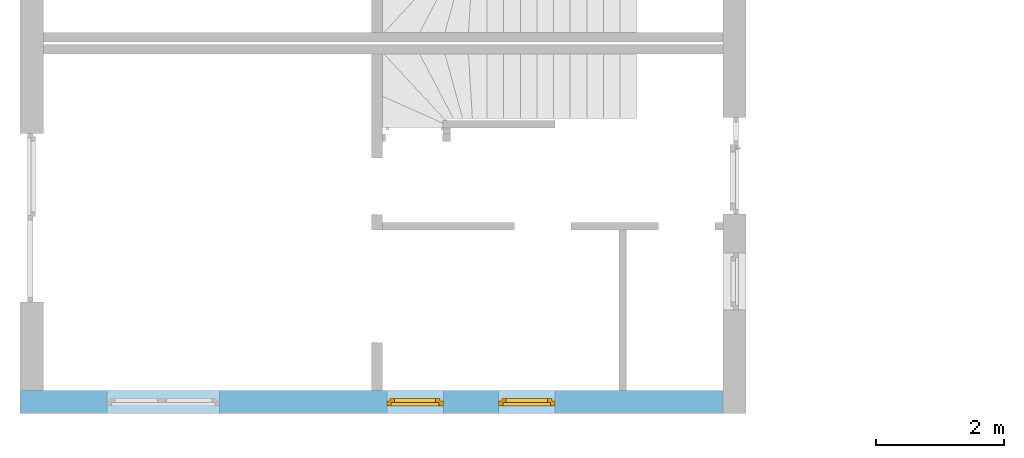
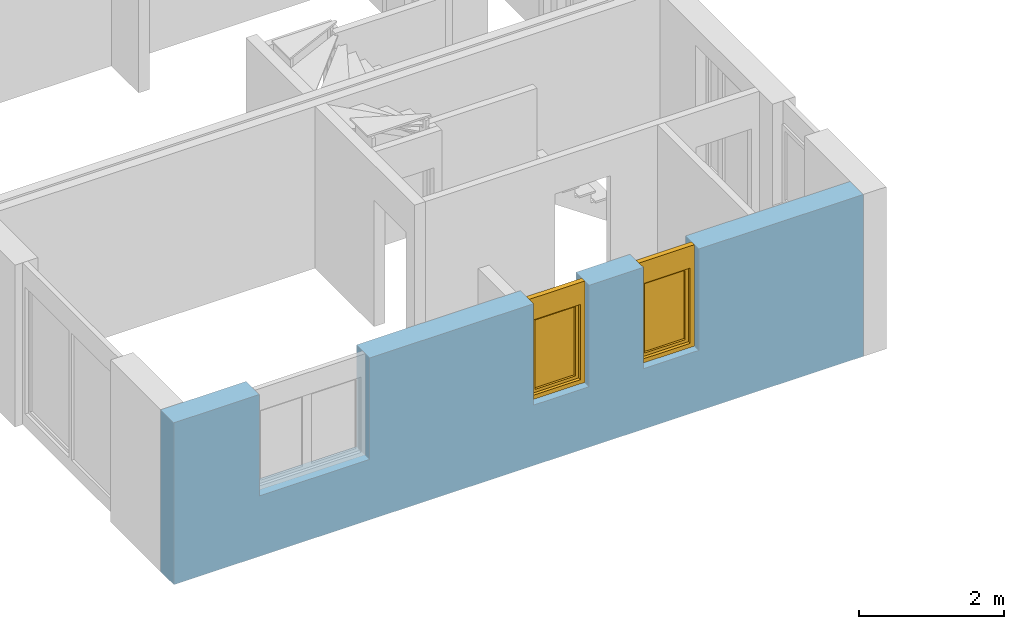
# One storey, part 4 of 41: 2 windows, 3 openings, plus 1 element that does not belong to this part.
"""IFC2X3 building model written with IfcOpenShell, lengths in millimetres."""

from ifc_helpers import new_model, entity, si_unit, converted_unit, frame, frame_2d, origin, origin_with_axes, place, context, subcontext, project, spatial, rectangle, extrude, faceted_brep, material, layer, layer_set, layer_usage, type_object, element, fill, save


model = new_model("IFC2X3")

# Units and contexts
model_context = context("Model", 3, precision=1e-05, world=origin())
body_context = subcontext(model_context, "Body", "Model", "MODEL_VIEW")
ifc_project = project(units=[si_unit("LENGTHUNIT", "METRE", prefix="MILLI"), converted_unit("PLANEANGLEUNIT", "DEGREE", entity("IfcPlaneAngleMeasure", 0.0174532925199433), si_unit("PLANEANGLEUNIT", "RADIAN"), dimensions=[0, 0, 0, 0, 0, 0, 0]), si_unit("AREAUNIT", "SQUARE_METRE"), si_unit("VOLUMEUNIT", "CUBIC_METRE")], contexts=[model_context])

# Building, storey
building_placement = place(None, origin())
building = spatial("IfcBuilding", under=ifc_project, at=building_placement, Name="Gebäude", CompositionType="ELEMENT")
storey_placement = place(building_placement, frame((0.0, 0.0, -200.0), z_axis=(0.0, 0.0, 1.0), x_axis=(1.0, 0.0, 0.0)))
storey = spatial("IfcBuildingStorey", under=building, at=storey_placement, Name="EG.- Grundriss", CompositionType="ELEMENT", Elevation=-200.0)

# Wall, openings, windows
ifc_material_1 = material(Name="Poroton")
ifc_layer = layer(ifc_material_1, 365.0000000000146)
ifc_layer_set = layer_set([ifc_layer])
ifc_layer_usage = layer_usage(ifc_layer_set, "AXIS2", "POSITIVE", 0.0)
wall_placement = place(storey_placement, frame((130992.7928067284, 125274.8877324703, 0.0), z_axis=(0.0, 0.0, 1.0), x_axis=(1.0, -2.749253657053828e-11, 0.0)))
wall = element("IfcWallStandardCase", 1, at=wall_placement, inside=storey, material=ifc_layer_usage, Name="<Unnamed Element>", context=body_context, shape_type="SweptSolid", body=[
    extrude(rectangle(XDim=10999.99999999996, YDim=365.0000000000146, at=frame_2d((5499.999999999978, 182.5000000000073), x_axis=(1.0, 0.0))), origin_with_axes(), (0.0, 0.0, 1.0), 2730.0),
])
opening_1_placement = place(wall_placement, frame((7489.999999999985, -3.477907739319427e-11, 1020.0), z_axis=(0.0, 1.0, 0.0), x_axis=(0.0, 0.0, 1.0)))
opening_1 = element("IfcOpeningElement", 2, at=opening_1_placement, cuts=wall, Name="Fensteröffnung", ObjectType="Opening", context=body_context, shape_type="SweptSolid", body=[
    extrude(rectangle(XDim=1710.0, YDim=885.0, at=frame_2d((855.0, 442.5), x_axis=(1.0, 0.0))), origin_with_axes(), (0.0, 0.0, 1.0), 365.0000000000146),
])
opening_2_placement = place(wall_placement, frame((5739.999999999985, -1.658918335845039e-11, 1020.0), z_axis=(0.0, 1.0, 0.0), x_axis=(0.0, 0.0, 1.0)))
opening_2 = element("IfcOpeningElement", 3, at=opening_2_placement, cuts=wall, Name="Fensteröffnung", ObjectType="Opening", context=body_context, shape_type="SweptSolid", body=[
    extrude(rectangle(XDim=1710.0, YDim=885.0, at=frame_2d((855.0, 442.5), x_axis=(1.0, 0.0))), origin_with_axes(), (0.0, 0.0, 1.0), 365.0000000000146),
])
opening_3_placement = place(wall_placement, frame((1364.999999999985, -7.494236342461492e-12, 1020.0), z_axis=(0.0, 1.0, 0.0), x_axis=(0.0, 0.0, 1.0)))
element("IfcOpeningElement", 4, at=opening_3_placement, cuts=wall, Name="Fensteröffnung", ObjectType="Opening", context=body_context, shape_type="SweptSolid", body=[
    extrude(rectangle(XDim=1710.0, YDim=1760.0, at=frame_2d((854.9999999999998, 880.0), x_axis=(1.0, 0.0))), origin_with_axes(), (0.0, 0.0, 1.0), 365.0000000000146),
])
ifc_material_2 = material()
window_style_1 = type_object("IfcWindowStyle", Name="Fenster", ConstructionType="NOTDEFINED", OperationType="USERDEFINED", ParameterTakesPrecedence=False, Sizeable=False)
window_1_placement = place(opening_1_placement, frame((0.0, 0.0, 0.0), z_axis=(1.0, 0.0, 0.0), x_axis=(0.0, 1.0, 0.0)))
window_1 = element("IfcWindow", 5, at=window_1_placement, inside=storey, type_object=window_style_1, material=ifc_material_2, Name="Fenster", OverallHeight=1710.0, OverallWidth=885.0, context=body_context, shape_type="Brep", body=[
    faceted_brep([(-1.224022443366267e-08, 200.0000000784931, 1710.0), (-1.224022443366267e-08, 200.000000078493, -2.449293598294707e-15), (69.99999998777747, 200.0000000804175, -2.449293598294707e-15), (69.99999998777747, 200.0000000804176, 1710.0), (-1.004082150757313e-08, 120.0000000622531, 2.449293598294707e-15), (-1.004082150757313e-08, 120.0000000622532, 1710.0), (69.99999998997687, 120.0000000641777, 1710.0), (69.99999998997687, 120.0000000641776, 2.449293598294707e-15), (-1.224022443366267e-08, 200.000000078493, -2.449293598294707e-15), (-1.224022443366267e-08, 200.0000000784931, 1710.0), (-1.004082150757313e-08, 120.0000000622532, 1710.0), (-1.004082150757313e-08, 120.0000000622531, 2.449293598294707e-15), (69.99999998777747, 200.0000000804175, -2.449293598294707e-15), (-1.224022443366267e-08, 200.000000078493, -2.449293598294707e-15), (-1.004082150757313e-08, 120.0000000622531, 2.449293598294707e-15), (69.99999998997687, 120.0000000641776, 2.449293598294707e-15), (69.99999998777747, 200.0000000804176, 1710.0), (69.99999998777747, 200.0000000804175, -2.449293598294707e-15), (69.99999998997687, 120.0000000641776, 2.449293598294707e-15), (69.99999998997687, 120.0000000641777, 1710.0), (-1.224022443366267e-08, 200.0000000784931, 1710.0), (69.99999998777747, 200.0000000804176, 1710.0), (69.99999998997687, 120.0000000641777, 1710.0), (-1.004082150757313e-08, 120.0000000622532, 1710.0)], [[[0, 1, 2, 3]], [[4, 5, 6, 7]], [[8, 9, 10, 11]], [[12, 13, 14, 15]], [[16, 17, 18, 19]], [[20, 21, 22, 23]]], orient=[[False], [False], [False], [False], [False], [False]]),
    faceted_brep([(814.9999999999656, 200.0000001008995, 1710.0), (814.9999999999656, 200.0000001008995, -2.449293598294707e-15), (884.9999999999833, 200.000000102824, -2.449293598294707e-15), (884.9999999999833, 200.000000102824, 1710.0), (815.0000000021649, 120.0000000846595, 2.449293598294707e-15), (815.0000000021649, 120.0000000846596, 1710.0), (885.0000000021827, 120.0000000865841, 1710.0), (885.0000000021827, 120.000000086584, 2.449293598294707e-15), (814.9999999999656, 200.0000001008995, -2.449293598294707e-15), (814.9999999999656, 200.0000001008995, 1710.0), (815.0000000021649, 120.0000000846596, 1710.0), (815.0000000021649, 120.0000000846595, 2.449293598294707e-15), (884.9999999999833, 200.000000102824, -2.449293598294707e-15), (814.9999999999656, 200.0000001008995, -2.449293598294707e-15), (815.0000000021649, 120.0000000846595, 2.449293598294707e-15), (885.0000000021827, 120.000000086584, 2.449293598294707e-15), (884.9999999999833, 200.000000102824, 1710.0), (884.9999999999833, 200.000000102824, -2.449293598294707e-15), (885.0000000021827, 120.000000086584, 2.449293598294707e-15), (885.0000000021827, 120.0000000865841, 1710.0), (814.9999999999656, 200.0000001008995, 1710.0), (884.9999999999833, 200.000000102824, 1710.0), (885.0000000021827, 120.0000000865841, 1710.0), (815.0000000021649, 120.0000000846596, 1710.0)], [[[0, 1, 2, 3]], [[4, 5, 6, 7]], [[8, 9, 10, 11]], [[12, 13, 14, 15]], [[16, 17, 18, 19]], [[20, 21, 22, 23]]], orient=[[False], [False], [False], [False], [False], [False]]),
    faceted_brep([(69.99999998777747, 200.0000000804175, 70.0), (69.99999998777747, 200.0000000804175, -2.449293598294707e-15), (814.9999999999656, 200.0000001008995, -2.449293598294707e-15), (814.9999999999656, 200.0000001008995, 70.0), (69.99999998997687, 120.0000000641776, 2.449293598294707e-15), (69.99999998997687, 120.0000000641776, 70.0), (815.0000000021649, 120.0000000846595, 70.0), (815.0000000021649, 120.0000000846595, 2.449293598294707e-15), (69.99999998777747, 200.0000000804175, -2.449293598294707e-15), (69.99999998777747, 200.0000000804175, 70.0), (69.99999998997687, 120.0000000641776, 70.0), (69.99999998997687, 120.0000000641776, 2.449293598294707e-15), (814.9999999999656, 200.0000001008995, -2.449293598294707e-15), (69.99999998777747, 200.0000000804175, -2.449293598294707e-15), (69.99999998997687, 120.0000000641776, 2.449293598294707e-15), (815.0000000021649, 120.0000000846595, 2.449293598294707e-15), (814.9999999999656, 200.0000001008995, 70.0), (814.9999999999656, 200.0000001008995, -2.449293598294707e-15), (815.0000000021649, 120.0000000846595, 2.449293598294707e-15), (815.0000000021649, 120.0000000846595, 70.0), (69.99999998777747, 200.0000000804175, 70.0), (814.9999999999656, 200.0000001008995, 70.0), (815.0000000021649, 120.0000000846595, 70.0), (69.99999998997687, 120.0000000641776, 70.0)], [[[0, 1, 2, 3]], [[4, 5, 6, 7]], [[8, 9, 10, 11]], [[12, 13, 14, 15]], [[16, 17, 18, 19]], [[20, 21, 22, 23]]], orient=[[False], [False], [False], [False], [False], [False]]),
    faceted_brep([(69.99999998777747, 200.0000000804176, 1710.0), (69.99999998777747, 200.0000000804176, 1340.0), (814.9999999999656, 200.0000001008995, 1340.0), (814.9999999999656, 200.0000001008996, 1710.0), (69.99999998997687, 120.0000000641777, 1340.0), (69.99999998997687, 120.0000000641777, 1710.0), (815.0000000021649, 120.0000000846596, 1710.0), (815.0000000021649, 120.0000000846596, 1340.0), (69.99999998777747, 200.0000000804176, 1340.0), (69.99999998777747, 200.0000000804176, 1710.0), (69.99999998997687, 120.0000000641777, 1710.0), (69.99999998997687, 120.0000000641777, 1340.0), (814.9999999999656, 200.0000001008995, 1340.0), (69.99999998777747, 200.0000000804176, 1340.0), (69.99999998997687, 120.0000000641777, 1340.0), (815.0000000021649, 120.0000000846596, 1340.0), (814.9999999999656, 200.0000001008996, 1710.0), (814.9999999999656, 200.0000001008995, 1340.0), (815.0000000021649, 120.0000000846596, 1340.0), (815.0000000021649, 120.0000000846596, 1710.0), (69.99999998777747, 200.0000000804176, 1710.0), (814.9999999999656, 200.0000001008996, 1710.0), (815.0000000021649, 120.0000000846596, 1710.0), (69.99999998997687, 120.0000000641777, 1710.0)], [[[0, 1, 2, 3]], [[4, 5, 6, 7]], [[8, 9, 10, 11]], [[12, 13, 14, 15]], [[16, 17, 18, 19]], [[20, 21, 22, 23]]], orient=[[False], [False], [False], [False], [False], [False]]),
    faceted_brep([(49.99999998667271, 240.0000000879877, 1360.0), (49.99999998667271, 240.0000000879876, 50.0), (119.9999999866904, 240.0000000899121, 50.0), (119.9999999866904, 240.0000000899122, 1360.0), (49.99999998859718, 170.0000000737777, 50.00000000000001), (49.99999998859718, 170.0000000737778, 1360.0), (119.9999999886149, 170.0000000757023, 1360.0), (119.9999999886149, 170.0000000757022, 50.00000000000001), (49.99999998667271, 240.0000000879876, 50.0), (49.99999998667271, 240.0000000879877, 1360.0), (49.99999998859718, 170.0000000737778, 1360.0), (49.99999998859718, 170.0000000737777, 50.00000000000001), (119.9999999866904, 240.0000000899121, 50.0), (49.99999998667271, 240.0000000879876, 50.0), (49.99999998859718, 170.0000000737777, 50.00000000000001), (119.9999999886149, 170.0000000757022, 50.00000000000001), (119.9999999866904, 240.0000000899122, 1360.0), (119.9999999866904, 240.0000000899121, 50.0), (119.9999999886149, 170.0000000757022, 50.00000000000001), (119.9999999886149, 170.0000000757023, 1360.0), (49.99999998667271, 240.0000000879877, 1360.0), (119.9999999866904, 240.0000000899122, 1360.0), (119.9999999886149, 170.0000000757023, 1360.0), (49.99999998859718, 170.0000000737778, 1360.0)], [[[0, 1, 2, 3]], [[4, 5, 6, 7]], [[8, 9, 10, 11]], [[12, 13, 14, 15]], [[16, 17, 18, 19]], [[20, 21, 22, 23]]], orient=[[False], [False], [False], [False], [False], [False]]),
    faceted_brep([(764.9999999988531, 240.0000001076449, 1360.0), (764.9999999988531, 240.0000001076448, 50.0), (834.9999999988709, 240.0000001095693, 50.0), (834.9999999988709, 240.0000001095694, 1360.0), (765.0000000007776, 170.0000000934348, 50.00000000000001), (765.0000000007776, 170.0000000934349, 1360.0), (835.0000000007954, 170.0000000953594, 1360.0), (835.0000000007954, 170.0000000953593, 50.00000000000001), (764.9999999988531, 240.0000001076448, 50.0), (764.9999999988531, 240.0000001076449, 1360.0), (765.0000000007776, 170.0000000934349, 1360.0), (765.0000000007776, 170.0000000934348, 50.00000000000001), (834.9999999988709, 240.0000001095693, 50.0), (764.9999999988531, 240.0000001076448, 50.0), (765.0000000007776, 170.0000000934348, 50.00000000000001), (835.0000000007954, 170.0000000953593, 50.00000000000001), (834.9999999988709, 240.0000001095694, 1360.0), (834.9999999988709, 240.0000001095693, 50.0), (835.0000000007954, 170.0000000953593, 50.00000000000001), (835.0000000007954, 170.0000000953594, 1360.0), (764.9999999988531, 240.0000001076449, 1360.0), (834.9999999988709, 240.0000001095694, 1360.0), (835.0000000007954, 170.0000000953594, 1360.0), (765.0000000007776, 170.0000000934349, 1360.0)], [[[0, 1, 2, 3]], [[4, 5, 6, 7]], [[8, 9, 10, 11]], [[12, 13, 14, 15]], [[16, 17, 18, 19]], [[20, 21, 22, 23]]], orient=[[False], [False], [False], [False], [False], [False]]),
    faceted_brep([(119.9999999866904, 240.0000000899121, 120.0), (119.9999999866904, 240.0000000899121, 50.0), (764.9999999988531, 240.0000001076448, 50.0), (764.9999999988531, 240.0000001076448, 120.0), (119.9999999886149, 170.0000000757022, 50.00000000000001), (119.9999999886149, 170.0000000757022, 120.0), (765.0000000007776, 170.0000000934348, 120.0), (765.0000000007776, 170.0000000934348, 50.00000000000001), (119.9999999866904, 240.0000000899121, 50.0), (119.9999999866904, 240.0000000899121, 120.0), (119.9999999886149, 170.0000000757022, 120.0), (119.9999999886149, 170.0000000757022, 50.00000000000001), (764.9999999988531, 240.0000001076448, 50.0), (119.9999999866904, 240.0000000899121, 50.0), (119.9999999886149, 170.0000000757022, 50.00000000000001), (765.0000000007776, 170.0000000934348, 50.00000000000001), (764.9999999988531, 240.0000001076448, 120.0), (764.9999999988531, 240.0000001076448, 50.0), (765.0000000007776, 170.0000000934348, 50.00000000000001), (765.0000000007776, 170.0000000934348, 120.0), (119.9999999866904, 240.0000000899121, 120.0), (764.9999999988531, 240.0000001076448, 120.0), (765.0000000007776, 170.0000000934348, 120.0), (119.9999999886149, 170.0000000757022, 120.0)], [[[0, 1, 2, 3]], [[4, 5, 6, 7]], [[8, 9, 10, 11]], [[12, 13, 14, 15]], [[16, 17, 18, 19]], [[20, 21, 22, 23]]], orient=[[False], [False], [False], [False], [False], [False]]),
    faceted_brep([(119.9999999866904, 240.0000000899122, 1360.0), (119.9999999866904, 240.0000000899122, 1290.0), (764.9999999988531, 240.0000001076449, 1290.0), (764.9999999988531, 240.0000001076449, 1360.0), (119.9999999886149, 170.0000000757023, 1290.0), (119.9999999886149, 170.0000000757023, 1360.0), (765.0000000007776, 170.0000000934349, 1360.0), (765.0000000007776, 170.0000000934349, 1290.0), (119.9999999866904, 240.0000000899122, 1290.0), (119.9999999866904, 240.0000000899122, 1360.0), (119.9999999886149, 170.0000000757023, 1360.0), (119.9999999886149, 170.0000000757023, 1290.0), (764.9999999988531, 240.0000001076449, 1290.0), (119.9999999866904, 240.0000000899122, 1290.0), (119.9999999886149, 170.0000000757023, 1290.0), (765.0000000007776, 170.0000000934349, 1290.0), (764.9999999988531, 240.0000001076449, 1360.0), (764.9999999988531, 240.0000001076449, 1290.0), (765.0000000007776, 170.0000000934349, 1290.0), (765.0000000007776, 170.0000000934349, 1360.0), (119.9999999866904, 240.0000000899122, 1360.0), (764.9999999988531, 240.0000001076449, 1360.0), (765.0000000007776, 170.0000000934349, 1360.0), (119.9999999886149, 170.0000000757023, 1360.0)], [[[0, 1, 2, 3]], [[4, 5, 6, 7]], [[8, 9, 10, 11]], [[12, 13, 14, 15]], [[16, 17, 18, 19]], [[20, 21, 22, 23]]], orient=[[False], [False], [False], [False], [False], [False]]),
    faceted_brep([(119.9999999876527, 205.0000000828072, 120.0), (764.9999999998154, 205.0000001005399, 120.0), (764.9999999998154, 205.0000001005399, 1290.0), (119.9999999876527, 205.0000000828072, 1290.0), (119.9999999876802, 204.0000000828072, 120.0), (119.9999999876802, 204.0000000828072, 1290.0), (764.9999999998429, 204.0000001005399, 1290.0), (764.9999999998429, 204.0000001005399, 120.0), (119.9999999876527, 205.0000000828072, 120.0), (119.9999999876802, 204.0000000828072, 120.0), (764.9999999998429, 204.0000001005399, 120.0), (764.9999999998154, 205.0000001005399, 120.0), (764.9999999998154, 205.0000001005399, 120.0), (764.9999999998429, 204.0000001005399, 120.0), (764.9999999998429, 204.0000001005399, 1290.0), (764.9999999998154, 205.0000001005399, 1290.0), (764.9999999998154, 205.0000001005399, 1290.0), (764.9999999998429, 204.0000001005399, 1290.0), (119.9999999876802, 204.0000000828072, 1290.0), (119.9999999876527, 205.0000000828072, 1290.0), (119.9999999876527, 205.0000000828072, 1290.0), (119.9999999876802, 204.0000000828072, 1290.0), (119.9999999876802, 204.0000000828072, 120.0), (119.9999999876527, 205.0000000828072, 120.0)], [[[0, 1, 2, 3]], [[4, 5, 6, 7]], [[8, 9, 10, 11]], [[12, 13, 14, 15]], [[16, 17, 18, 19]], [[20, 21, 22, 23]]], orient=[[False], [False], [False], [False], [False], [False]]),
])
fill(opening_1, window_1)
ifc_material_3 = material()
window_style_2 = type_object("IfcWindowStyle", Name="Fenster", ConstructionType="NOTDEFINED", OperationType="USERDEFINED", ParameterTakesPrecedence=False, Sizeable=False)
window_2_placement = place(opening_2_placement, frame((0.0, 0.0, 0.0), z_axis=(1.0, 0.0, 0.0), x_axis=(0.0, 1.0, 0.0)))
window_2 = element("IfcWindow", 6, at=window_2_placement, inside=storey, type_object=window_style_2, material=ifc_material_3, Name="Fenster", OverallHeight=1710.0, OverallWidth=885.0, context=body_context, shape_type="Brep", body=[
    faceted_brep([(-1.22402244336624e-08, 200.000000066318, 1710.0), (-1.22402244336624e-08, 200.0000000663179, -2.449293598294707e-15), (69.99999998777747, 200.0000000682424, -2.449293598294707e-15), (69.99999998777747, 200.0000000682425, 1710.0), (-1.004082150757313e-08, 120.0000000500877, 2.449293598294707e-15), (-1.004082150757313e-08, 120.0000000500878, 1710.0), (69.99999998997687, 120.0000000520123, 1710.0), (69.99999998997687, 120.0000000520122, 2.449293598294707e-15), (-1.22402244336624e-08, 200.0000000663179, -2.449293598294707e-15), (-1.22402244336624e-08, 200.000000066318, 1710.0), (-1.004082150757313e-08, 120.0000000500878, 1710.0), (-1.004082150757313e-08, 120.0000000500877, 2.449293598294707e-15), (69.99999998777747, 200.0000000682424, -2.449293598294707e-15), (-1.22402244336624e-08, 200.0000000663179, -2.449293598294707e-15), (-1.004082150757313e-08, 120.0000000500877, 2.449293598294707e-15), (69.99999998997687, 120.0000000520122, 2.449293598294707e-15), (69.99999998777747, 200.0000000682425, 1710.0), (69.99999998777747, 200.0000000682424, -2.449293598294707e-15), (69.99999998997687, 120.0000000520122, 2.449293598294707e-15), (69.99999998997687, 120.0000000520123, 1710.0), (-1.22402244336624e-08, 200.000000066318, 1710.0), (69.99999998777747, 200.0000000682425, 1710.0), (69.99999998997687, 120.0000000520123, 1710.0), (-1.004082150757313e-08, 120.0000000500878, 1710.0)], [[[0, 1, 2, 3]], [[4, 5, 6, 7]], [[8, 9, 10, 11]], [[12, 13, 14, 15]], [[16, 17, 18, 19]], [[20, 21, 22, 23]]], orient=[[False], [False], [False], [False], [False], [False]]),
    faceted_brep([(814.9999999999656, 200.0000000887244, 1710.0), (814.9999999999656, 200.0000000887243, -2.449293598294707e-15), (884.9999999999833, 200.0000000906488, -2.449293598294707e-15), (884.9999999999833, 200.0000000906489, 1710.0), (815.0000000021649, 120.0000000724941, 2.449293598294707e-15), (815.0000000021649, 120.0000000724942, 1710.0), (885.0000000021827, 120.0000000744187, 1710.0), (885.0000000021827, 120.0000000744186, 2.449293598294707e-15), (814.9999999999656, 200.0000000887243, -2.449293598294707e-15), (814.9999999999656, 200.0000000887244, 1710.0), (815.0000000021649, 120.0000000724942, 1710.0), (815.0000000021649, 120.0000000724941, 2.449293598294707e-15), (884.9999999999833, 200.0000000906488, -2.449293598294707e-15), (814.9999999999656, 200.0000000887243, -2.449293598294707e-15), (815.0000000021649, 120.0000000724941, 2.449293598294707e-15), (885.0000000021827, 120.0000000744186, 2.449293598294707e-15), (884.9999999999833, 200.0000000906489, 1710.0), (884.9999999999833, 200.0000000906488, -2.449293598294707e-15), (885.0000000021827, 120.0000000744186, 2.449293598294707e-15), (885.0000000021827, 120.0000000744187, 1710.0), (814.9999999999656, 200.0000000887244, 1710.0), (884.9999999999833, 200.0000000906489, 1710.0), (885.0000000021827, 120.0000000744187, 1710.0), (815.0000000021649, 120.0000000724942, 1710.0)], [[[0, 1, 2, 3]], [[4, 5, 6, 7]], [[8, 9, 10, 11]], [[12, 13, 14, 15]], [[16, 17, 18, 19]], [[20, 21, 22, 23]]], orient=[[False], [False], [False], [False], [False], [False]]),
    faceted_brep([(69.99999998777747, 200.0000000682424, 70.0), (69.99999998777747, 200.0000000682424, -2.449293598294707e-15), (814.9999999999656, 200.0000000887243, -2.449293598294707e-15), (814.9999999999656, 200.0000000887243, 70.0), (69.99999998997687, 120.0000000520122, 2.449293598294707e-15), (69.99999998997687, 120.0000000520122, 70.0), (815.0000000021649, 120.0000000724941, 70.0), (815.0000000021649, 120.0000000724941, 2.449293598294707e-15), (69.99999998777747, 200.0000000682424, -2.449293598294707e-15), (69.99999998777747, 200.0000000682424, 70.0), (69.99999998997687, 120.0000000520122, 70.0), (69.99999998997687, 120.0000000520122, 2.449293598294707e-15), (814.9999999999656, 200.0000000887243, -2.449293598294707e-15), (69.99999998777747, 200.0000000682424, -2.449293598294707e-15), (69.99999998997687, 120.0000000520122, 2.449293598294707e-15), (815.0000000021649, 120.0000000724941, 2.449293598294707e-15), (814.9999999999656, 200.0000000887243, 70.0), (814.9999999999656, 200.0000000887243, -2.449293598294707e-15), (815.0000000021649, 120.0000000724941, 2.449293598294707e-15), (815.0000000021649, 120.0000000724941, 70.0), (69.99999998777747, 200.0000000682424, 70.0), (814.9999999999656, 200.0000000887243, 70.0), (815.0000000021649, 120.0000000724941, 70.0), (69.99999998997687, 120.0000000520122, 70.0)], [[[0, 1, 2, 3]], [[4, 5, 6, 7]], [[8, 9, 10, 11]], [[12, 13, 14, 15]], [[16, 17, 18, 19]], [[20, 21, 22, 23]]], orient=[[False], [False], [False], [False], [False], [False]]),
    faceted_brep([(69.99999998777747, 200.0000000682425, 1710.0), (69.99999998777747, 200.0000000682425, 1340.0), (814.9999999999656, 200.0000000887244, 1340.0), (814.9999999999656, 200.0000000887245, 1710.0), (69.99999998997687, 120.0000000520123, 1340.0), (69.99999998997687, 120.0000000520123, 1710.0), (815.0000000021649, 120.0000000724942, 1710.0), (815.0000000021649, 120.0000000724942, 1340.0), (69.99999998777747, 200.0000000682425, 1340.0), (69.99999998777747, 200.0000000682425, 1710.0), (69.99999998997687, 120.0000000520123, 1710.0), (69.99999998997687, 120.0000000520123, 1340.0), (814.9999999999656, 200.0000000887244, 1340.0), (69.99999998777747, 200.0000000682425, 1340.0), (69.99999998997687, 120.0000000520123, 1340.0), (815.0000000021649, 120.0000000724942, 1340.0), (814.9999999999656, 200.0000000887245, 1710.0), (814.9999999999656, 200.0000000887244, 1340.0), (815.0000000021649, 120.0000000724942, 1340.0), (815.0000000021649, 120.0000000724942, 1710.0), (69.99999998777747, 200.0000000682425, 1710.0), (814.9999999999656, 200.0000000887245, 1710.0), (815.0000000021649, 120.0000000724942, 1710.0), (69.99999998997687, 120.0000000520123, 1710.0)], [[[0, 1, 2, 3]], [[4, 5, 6, 7]], [[8, 9, 10, 11]], [[12, 13, 14, 15]], [[16, 17, 18, 19]], [[20, 21, 22, 23]]], orient=[[False], [False], [False], [False], [False], [False]]),
    faceted_brep([(49.99999998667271, 240.0000000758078, 1360.0), (49.99999998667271, 240.0000000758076, 50.0), (119.9999999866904, 240.0000000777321, 50.0), (119.9999999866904, 240.0000000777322, 1360.0), (49.99999998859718, 170.0000000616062, 50.00000000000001), (49.99999998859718, 170.0000000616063, 1360.0), (119.9999999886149, 170.0000000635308, 1360.0), (119.9999999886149, 170.0000000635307, 50.00000000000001), (49.99999998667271, 240.0000000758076, 50.0), (49.99999998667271, 240.0000000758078, 1360.0), (49.99999998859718, 170.0000000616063, 1360.0), (49.99999998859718, 170.0000000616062, 50.00000000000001), (119.9999999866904, 240.0000000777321, 50.0), (49.99999998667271, 240.0000000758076, 50.0), (49.99999998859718, 170.0000000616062, 50.00000000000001), (119.9999999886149, 170.0000000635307, 50.00000000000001), (119.9999999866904, 240.0000000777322, 1360.0), (119.9999999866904, 240.0000000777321, 50.0), (119.9999999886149, 170.0000000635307, 50.00000000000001), (119.9999999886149, 170.0000000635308, 1360.0), (49.99999998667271, 240.0000000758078, 1360.0), (119.9999999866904, 240.0000000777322, 1360.0), (119.9999999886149, 170.0000000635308, 1360.0), (49.99999998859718, 170.0000000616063, 1360.0)], [[[0, 1, 2, 3]], [[4, 5, 6, 7]], [[8, 9, 10, 11]], [[12, 13, 14, 15]], [[16, 17, 18, 19]], [[20, 21, 22, 23]]], orient=[[False], [False], [False], [False], [False], [False]]),
    faceted_brep([(764.9999999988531, 240.0000000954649, 1360.0), (764.9999999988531, 240.0000000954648, 50.0), (834.9999999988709, 240.0000000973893, 50.0), (834.9999999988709, 240.0000000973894, 1360.0), (765.0000000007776, 170.0000000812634, 50.00000000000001), (765.0000000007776, 170.0000000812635, 1360.0), (835.0000000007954, 170.0000000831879, 1360.0), (835.0000000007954, 170.0000000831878, 50.00000000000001), (764.9999999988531, 240.0000000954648, 50.0), (764.9999999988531, 240.0000000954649, 1360.0), (765.0000000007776, 170.0000000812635, 1360.0), (765.0000000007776, 170.0000000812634, 50.00000000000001), (834.9999999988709, 240.0000000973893, 50.0), (764.9999999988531, 240.0000000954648, 50.0), (765.0000000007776, 170.0000000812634, 50.00000000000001), (835.0000000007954, 170.0000000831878, 50.00000000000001), (834.9999999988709, 240.0000000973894, 1360.0), (834.9999999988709, 240.0000000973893, 50.0), (835.0000000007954, 170.0000000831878, 50.00000000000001), (835.0000000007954, 170.0000000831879, 1360.0), (764.9999999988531, 240.0000000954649, 1360.0), (834.9999999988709, 240.0000000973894, 1360.0), (835.0000000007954, 170.0000000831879, 1360.0), (765.0000000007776, 170.0000000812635, 1360.0)], [[[0, 1, 2, 3]], [[4, 5, 6, 7]], [[8, 9, 10, 11]], [[12, 13, 14, 15]], [[16, 17, 18, 19]], [[20, 21, 22, 23]]], orient=[[False], [False], [False], [False], [False], [False]]),
    faceted_brep([(119.9999999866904, 240.0000000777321, 120.0), (119.9999999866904, 240.0000000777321, 50.0), (764.9999999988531, 240.0000000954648, 50.0), (764.9999999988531, 240.0000000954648, 120.0), (119.9999999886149, 170.0000000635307, 50.00000000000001), (119.9999999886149, 170.0000000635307, 120.0), (765.0000000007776, 170.0000000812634, 120.0), (765.0000000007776, 170.0000000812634, 50.00000000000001), (119.9999999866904, 240.0000000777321, 50.0), (119.9999999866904, 240.0000000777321, 120.0), (119.9999999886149, 170.0000000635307, 120.0), (119.9999999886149, 170.0000000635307, 50.00000000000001), (764.9999999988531, 240.0000000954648, 50.0), (119.9999999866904, 240.0000000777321, 50.0), (119.9999999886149, 170.0000000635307, 50.00000000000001), (765.0000000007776, 170.0000000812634, 50.00000000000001), (764.9999999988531, 240.0000000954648, 120.0), (764.9999999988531, 240.0000000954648, 50.0), (765.0000000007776, 170.0000000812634, 50.00000000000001), (765.0000000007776, 170.0000000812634, 120.0), (119.9999999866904, 240.0000000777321, 120.0), (764.9999999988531, 240.0000000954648, 120.0), (765.0000000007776, 170.0000000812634, 120.0), (119.9999999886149, 170.0000000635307, 120.0)], [[[0, 1, 2, 3]], [[4, 5, 6, 7]], [[8, 9, 10, 11]], [[12, 13, 14, 15]], [[16, 17, 18, 19]], [[20, 21, 22, 23]]], orient=[[False], [False], [False], [False], [False], [False]]),
    faceted_brep([(119.9999999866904, 240.0000000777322, 1360.0), (119.9999999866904, 240.0000000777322, 1290.0), (764.9999999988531, 240.0000000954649, 1290.0), (764.9999999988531, 240.0000000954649, 1360.0), (119.9999999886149, 170.0000000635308, 1290.0), (119.9999999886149, 170.0000000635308, 1360.0), (765.0000000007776, 170.0000000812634, 1360.0), (765.0000000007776, 170.0000000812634, 1290.0), (119.9999999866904, 240.0000000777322, 1290.0), (119.9999999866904, 240.0000000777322, 1360.0), (119.9999999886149, 170.0000000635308, 1360.0), (119.9999999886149, 170.0000000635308, 1290.0), (764.9999999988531, 240.0000000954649, 1290.0), (119.9999999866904, 240.0000000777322, 1290.0), (119.9999999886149, 170.0000000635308, 1290.0), (765.0000000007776, 170.0000000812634, 1290.0), (764.9999999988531, 240.0000000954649, 1360.0), (764.9999999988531, 240.0000000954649, 1290.0), (765.0000000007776, 170.0000000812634, 1290.0), (765.0000000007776, 170.0000000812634, 1360.0), (119.9999999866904, 240.0000000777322, 1360.0), (764.9999999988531, 240.0000000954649, 1360.0), (765.0000000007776, 170.0000000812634, 1360.0), (119.9999999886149, 170.0000000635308, 1360.0)], [[[0, 1, 2, 3]], [[4, 5, 6, 7]], [[8, 9, 10, 11]], [[12, 13, 14, 15]], [[16, 17, 18, 19]], [[20, 21, 22, 23]]], orient=[[False], [False], [False], [False], [False], [False]]),
    faceted_brep([(119.9999999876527, 205.0000000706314, 120.0), (764.9999999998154, 205.0000000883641, 120.0), (764.9999999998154, 205.0000000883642, 1290.0), (119.9999999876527, 205.0000000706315, 1290.0), (119.9999999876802, 204.0000000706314, 120.0), (119.9999999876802, 204.0000000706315, 1290.0), (764.9999999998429, 204.0000000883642, 1290.0), (764.9999999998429, 204.0000000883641, 120.0), (119.9999999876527, 205.0000000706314, 120.0), (119.9999999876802, 204.0000000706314, 120.0), (764.9999999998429, 204.0000000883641, 120.0), (764.9999999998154, 205.0000000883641, 120.0), (764.9999999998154, 205.0000000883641, 120.0), (764.9999999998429, 204.0000000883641, 120.0), (764.9999999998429, 204.0000000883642, 1290.0), (764.9999999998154, 205.0000000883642, 1290.0), (764.9999999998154, 205.0000000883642, 1290.0), (764.9999999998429, 204.0000000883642, 1290.0), (119.9999999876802, 204.0000000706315, 1290.0), (119.9999999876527, 205.0000000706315, 1290.0), (119.9999999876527, 205.0000000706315, 1290.0), (119.9999999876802, 204.0000000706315, 1290.0), (119.9999999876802, 204.0000000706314, 120.0), (119.9999999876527, 205.0000000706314, 120.0)], [[[0, 1, 2, 3]], [[4, 5, 6, 7]], [[8, 9, 10, 11]], [[12, 13, 14, 15]], [[16, 17, 18, 19]], [[20, 21, 22, 23]]], orient=[[False], [False], [False], [False], [False], [False]]),
])
fill(opening_2, window_2)

save(model, "model.ifc")
